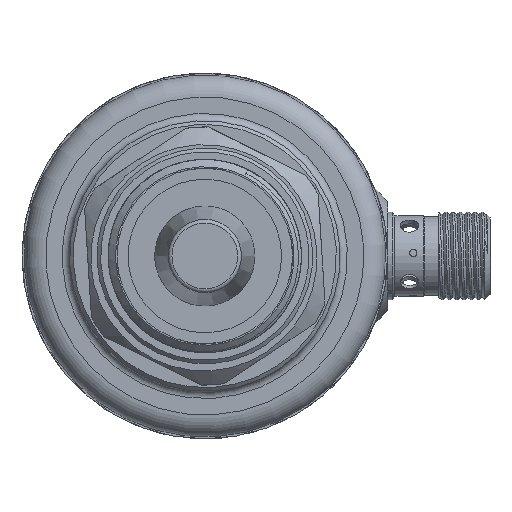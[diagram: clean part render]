
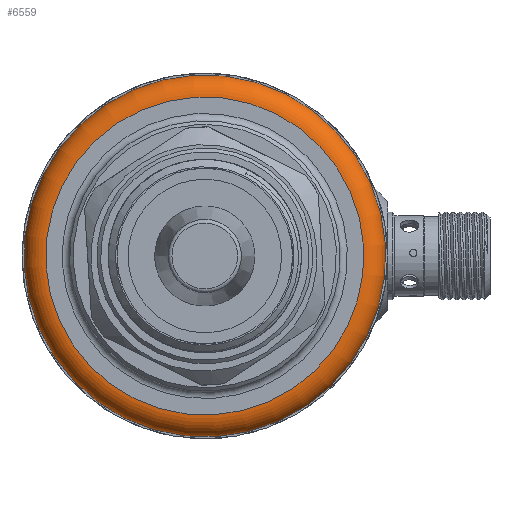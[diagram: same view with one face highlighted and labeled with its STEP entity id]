
A CAD part, front view. The second image highlights one B-rep face of the part: STEP entity #6559.
In plain terms, the highlighted toroidal (fillet/blend) face has major radius 21.75 mm and minor radius 3 mm.
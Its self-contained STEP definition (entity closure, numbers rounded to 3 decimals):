
#807 = DIRECTION ( 'NONE',  ( 1., 0., 0. ) ) ;
#812 = EDGE_LOOP ( 'NONE', ( #12956 ) ) ;
#1000 = AXIS2_PLACEMENT_3D ( 'NONE', #8598, #7610, #14336 ) ;
#2450 = CARTESIAN_POINT ( 'NONE',  ( 44., 0., -25.025 ) ) ;
#2838 = FACE_OUTER_BOUND ( 'NONE', #10043, .T. ) ;
#3658 = CARTESIAN_POINT ( 'NONE',  ( 41., 0., -22.025 ) ) ;
#4131 = AXIS2_PLACEMENT_3D ( 'NONE', #13069, #7955, #9593 ) ;
#6559 = ADVANCED_FACE ( 'NONE', ( #13195, #2838 ), #8208, .T. ) ;
#7247 = AXIS2_PLACEMENT_3D ( 'NONE', #12336, #807, #7453 ) ;
#7453 = DIRECTION ( 'NONE',  ( 0., 0., -1. ) ) ;
#7610 = DIRECTION ( 'NONE',  ( -1., 0., 0. ) ) ;
#7955 = DIRECTION ( 'NONE',  ( 1., 0., 0. ) ) ;
#8208 = TOROIDAL_SURFACE ( 'NONE', #7247, 21.75, 3. ) ;
#8598 = CARTESIAN_POINT ( 'NONE',  ( 41., 0., -0.275 ) ) ;
#9593 = DIRECTION ( 'NONE',  ( 0., 0., -1. ) ) ;
#10043 = EDGE_LOOP ( 'NONE', ( #11277 ) ) ;
#11277 = ORIENTED_EDGE ( 'NONE', *, *, #13412, .F. ) ;
#12336 = CARTESIAN_POINT ( 'NONE',  ( 44., 0., -0.275 ) ) ;
#12915 = EDGE_CURVE ( 'NONE', #13030, #13030, #13294, .T. ) ;
#12956 = ORIENTED_EDGE ( 'NONE', *, *, #12915, .F. ) ;
#13030 = VERTEX_POINT ( 'NONE', #2450 ) ;
#13069 = CARTESIAN_POINT ( 'NONE',  ( 44., 0., -0.275 ) ) ;
#13111 = VERTEX_POINT ( 'NONE', #3658 ) ;
#13195 = FACE_OUTER_BOUND ( 'NONE', #812, .T. ) ;
#13294 = CIRCLE ( 'NONE', #4131, 24.75 ) ;
#13412 = EDGE_CURVE ( 'NONE', #13111, #13111, #14020, .T. ) ;
#14020 = CIRCLE ( 'NONE', #1000, 21.75 ) ;
#14336 = DIRECTION ( 'NONE',  ( 0., 0., -1. ) ) ;
